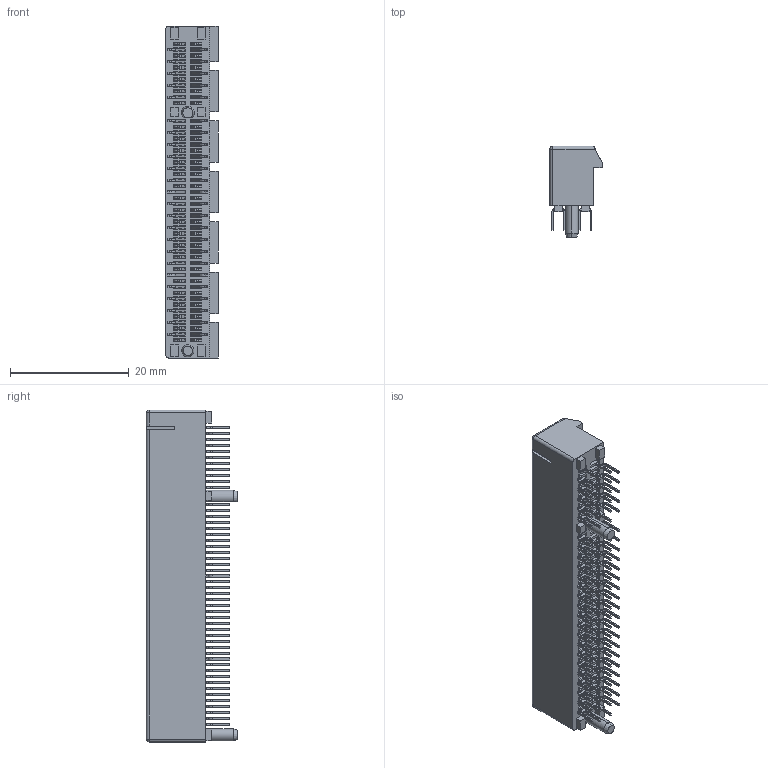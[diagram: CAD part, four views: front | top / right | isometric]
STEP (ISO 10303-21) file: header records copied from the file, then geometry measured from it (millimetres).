
FILE_DESCRIPTION (( 'STEP AP203' ), '1' );
FILE_NAME ('TE PCIe Express x8 (3.1mm Pins).STEP', '2015-01-12T00:37:24', ( '' ), ( '' ), 'SwSTEP 2.0', 'SolidWorks 2013', '' );
FILE_SCHEMA (( 'CONFIG_CONTROL_DESIGN' ));
Length unit declared in the file: millimetre
Products named in the file (4): PCIe Body_PCIe x8; Pins_Internal Pin (Long); Pins_External Pin (Long); TE PCIe Express x8 (3.1mm Pins)
Assembly tree (99 placements, depth 2):
  TE PCIe Express x8 (3.1mm Pins)
    PCIe Body_PCIe x8
    Pins_Internal Pin (Long)  x50
    Pins_External Pin (Long)  x48
Bounding box: 8.8 x 15.4 x 56 mm (x, y, z)
Volume: 2846.2 mm3; surface area: 8450.5 mm2
Topology: 99 solids, 99 shells, 3540 faces, 10555 edges, 7025 vertices
Faces by surface type: plane 2348, cylinder 1186, cone 4, sphere 2
Entity records: 42663 total; most frequent: ORIENTED_EDGE 7282, CARTESIAN_POINT 7220, DIRECTION 5999, EDGE_CURVE 3641, VECTOR 3567, LINE 3567, VERTEX_POINT 2417, EDGE_LOOP 1250
